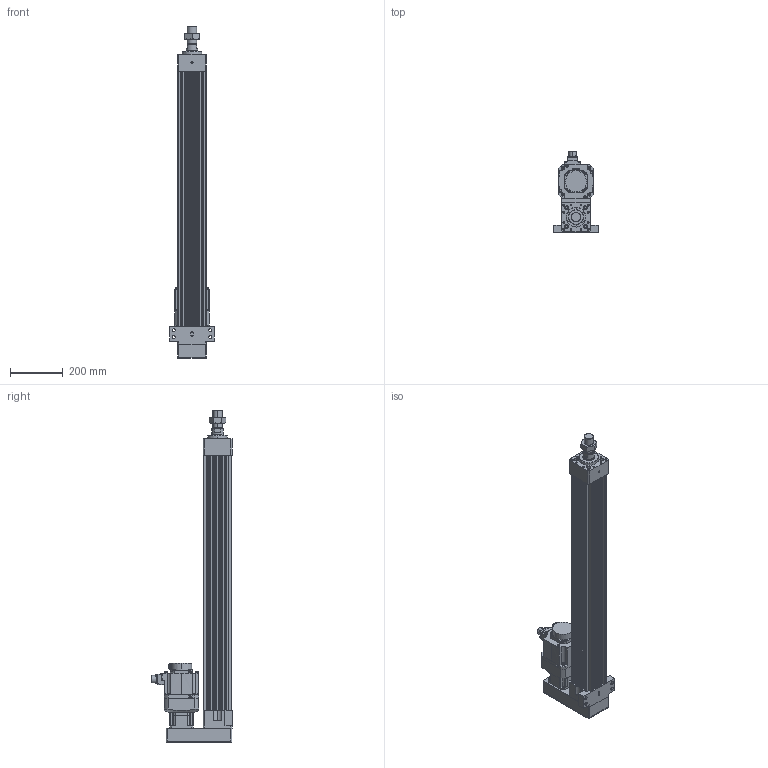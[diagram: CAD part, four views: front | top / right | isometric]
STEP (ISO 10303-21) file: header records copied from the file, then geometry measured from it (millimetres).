
FILE_DESCRIPTION (( 'STEP AP203' ), '1' );
FILE_NAME ('HES110NS(HS)-P800-W010G00-M-FFC.STEP', '2023-01-26T10:33:51', ( 'tms' ), ( '' ), 'SwSTEP 2.0', 'SolidWorks 2013', '' );
FILE_SCHEMA (( 'CONFIG_CONTROL_DESIGN' ));
Length unit declared in the file: millimetre
Products named in the file (8): M36X1.5P; AB0901; HES110NS(HS)-P800-W010G00-M-FFC; HES110-P800-G090-FFC; P0401301004; AB090-003[HG-SR102B]; HES110 ROD M ST800; HG-SR102
Assembly tree (7 placements, depth 3):
  HES110NS(HS)-P800-W010G00-M-FFC
    HES110-P800-G090-FFC
    HES110 ROD M ST800
    M36X1.5P
    AB090-003[HG-SR102B]
      AB0901
      P0401301004
    HG-SR102
Bounding box: 170 x 304.99 x 1263 mm (x, y, z)
Volume: 10506634.9 mm3; surface area: 1428356.9 mm2
Topology: 4 solids, 11 shells, 1111 faces, 2835 edges, 1826 vertices
Faces by surface type: cylinder 519, plane 486, cone 94, bspline 8, torus 4
Entity records: 35472 total; most frequent: CARTESIAN_POINT 6938, DIRECTION 6110, ORIENTED_EDGE 5574, EDGE_CURVE 2797, AXIS2_PLACEMENT_3D 2269, VERTEX_POINT 1826, VECTOR 1572, LINE 1572
